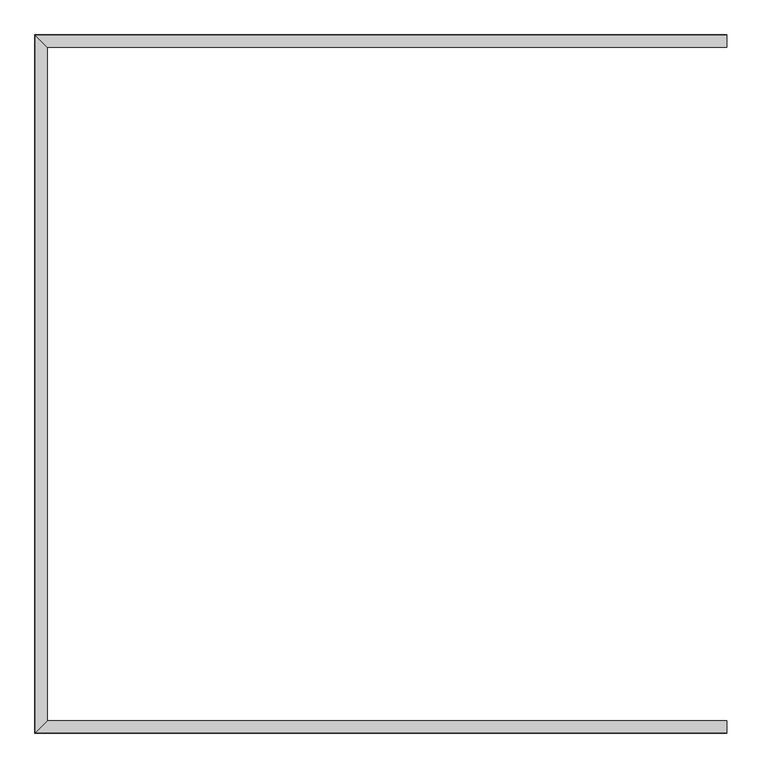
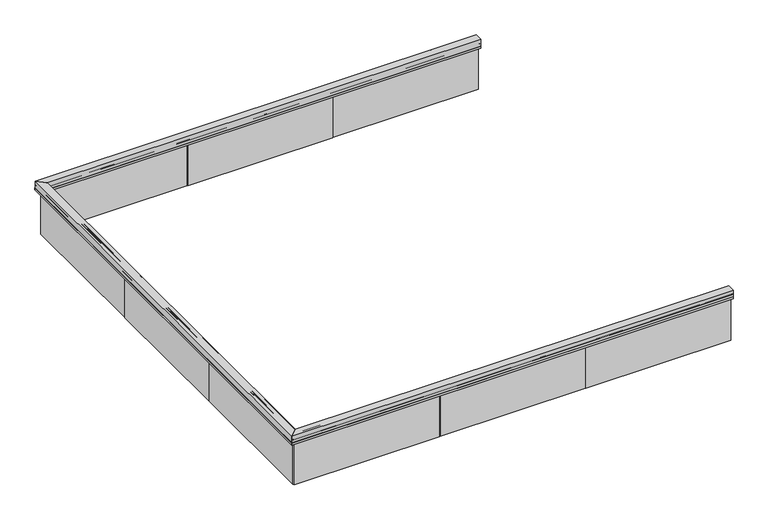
"""IFC4 building model written with IfcOpenShell, lengths in millimetres: railing geometry, Railing - VIVA Railings - Smoke Baffle System - Surface Mount 2 Sides Exposed."""

from ifc_helpers import new_model, si_unit, frame, origin, place, context, project, spatial, polyline, circle_curve, ellipse_curve, outline, extrude, source, transform, mapped, element, save
from ifc_brep_helpers import plane_surface, cylinder_surface, advanced_brep


def railing_b67c2756(model_context):
    return source(origin(), model_context, "Body", "SolidModel", [
        advanced_brep(
        [(9556.8565718, 8380.1322749, -135.8921267), (9556.8565718, 8378.9090912, -135.8921267), (9556.8565718, 8378.9090912, -153.8), (9556.8565718, 8402.9090912, -153.8), (9556.8565718, 8402.9090912, -152.4), (9556.8565718, 8383.4090912, -152.4), (9556.8565718, 8383.4090912, -135.8921267), (9556.8565718, 8382.1313489, -135.8921267), (9556.8565718, 8382.1313489, -115.6469194), (9556.8565718, 8382.1313489, -111.8354806), (9556.8565718, 8382.1313489, -78.1990741), (9556.8565718, 8399.1322749, -78.1990741), (9556.8565718, 8399.1322749, -89.9518892), (9556.8565718, 8409.3629707, -88.0459827), (9556.8565718, 8409.3629707, -78.1990741), (9556.8565718, 8411.8822749, -78.1990741), (9556.8565718, 8414.401579, -78.1990741), (9556.8565718, 8414.401579, -88.0459827), (9556.8565718, 8424.6322749, -89.9518892), (9556.8565718, 8424.6322749, -78.1990741), (9556.8565718, 8441.6332008, -78.1990741), (9556.8565718, 8441.6332008, -111.8354806), (9556.8565718, 8441.6332008, -115.6469194), (9556.8565718, 8441.6332008, -135.8921267), (9556.8565718, 8440.3554585, -135.8921267), (9556.8565718, 8440.3554585, -152.4), (9556.8565718, 8420.8554585, -152.4), (9556.8565718, 8420.8554585, -153.8), (9556.8565718, 8444.8554585, -153.8), (9556.8565718, 8444.8554585, -135.8921267), (9556.8565718, 8443.6322749, -135.8921267), (9556.8565718, 8443.6322749, -76.2), (9556.8565718, 8380.1322749, -76.2), (5931.0065718, 8380.1322749, -135.8921267), (5931.0065718, 8380.1322749, -76.2), (5867.5065718, 8443.6322749, -76.2), (5867.5065718, 8443.6322749, -135.8921267), (5866.2833882, 8444.8554585, -135.8921267), (5866.2833882, 8444.8554585, -153.8), (5890.2833882, 8420.8554585, -153.8), (5890.2833882, 8420.8554585, -152.4), (5870.7833882, 8440.3554585, -152.4), (5870.7833882, 8440.3554585, -135.8921267), (5869.5056459, 8441.6332008, -135.8921267), (5869.5056459, 8441.6332008, -115.6469194), (5869.5056459, 8441.6332008, -111.8354806), (5869.5056459, 8441.6332008, -78.1990741), (5886.5065718, 8424.6322749, -78.1990741), (5886.5065718, 8424.6322749, -89.9518892), (5896.7372677, 8414.401579, -88.0459827), (5896.7372677, 8414.401579, -78.1990741), (5899.2565718, 8411.8822749, -78.1990741), (5901.775876, 8409.3629707, -78.1990741), (5901.775876, 8409.3629707, -88.0459827), (5912.0065718, 8399.1322749, -89.9518892), (5912.0065718, 8399.1322749, -78.1990741), (5929.0074978, 8382.1313489, -78.1990741), (5929.0074978, 8382.1313489, -111.8354806), (5929.0074978, 8382.1313489, -115.6469194), (5929.0074978, 8382.1313489, -135.8921267), (5927.7297555, 8383.4090912, -135.8921267), (5927.7297555, 8383.4090912, -152.4), (5908.2297555, 8402.9090912, -152.4), (5908.2297555, 8402.9090912, -153.8), (5932.2297555, 8378.9090912, -153.8), (5932.2297555, 8378.9090912, -135.8921267)],
        [
            (0, 1),
            (1, 2),
            (2, 3),
            (3, 4),
            (4, 5),
            (5, 6),
            (6, 7),
            (7, 8),
            (8, 9, circle_curve(frame((9556.8565718, 8385.1335765, -113.7412), z_axis=(1.0, 0.0, 0.0), x_axis=(0.0, -0.6169199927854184, -0.7870258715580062)), 3.5560001)),
            (9, 10),
            (10, 11),
            (11, 12),
            (12, 13),
            (13, 14),
            (14, 15),
            (15, 16),
            (16, 17),
            (17, 18),
            (18, 19),
            (19, 20),
            (20, 21),
            (21, 22, circle_curve(frame((9556.8565718, 8438.6309732, -113.7412), z_axis=(1.0, 0.0, 0.0), x_axis=(0.0, 0.6169199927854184, -0.7870258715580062)), 3.5560001)),
            (22, 23),
            (23, 24),
            (24, 25),
            (25, 26),
            (26, 27),
            (27, 28),
            (28, 29),
            (29, 30),
            (30, 31),
            (31, 32),
            (32, 0),
            (33, 34),
            (34, 35),
            (35, 36),
            (36, 37),
            (37, 38),
            (38, 39),
            (39, 40),
            (40, 41),
            (41, 42),
            (42, 43),
            (43, 44),
            (44, 45, ellipse_curve(frame((5872.5078735, 8438.6309732, -113.7412), z_axis=(-0.7071067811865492, -0.7071067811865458, 0.0), x_axis=(0.7071067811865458, -0.7071067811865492, 0.0)), 5.0289436, 3.5560001)),
            (45, 46),
            (46, 47),
            (47, 48),
            (48, 49),
            (49, 50),
            (50, 51),
            (51, 52),
            (52, 53),
            (53, 54),
            (54, 55),
            (55, 56),
            (56, 57),
            (57, 58, ellipse_curve(frame((5926.0052702, 8385.1335765, -113.7412), z_axis=(-0.7071067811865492, -0.7071067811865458, 0.0), x_axis=(0.7071067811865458, -0.7071067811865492, 0.0)), 5.0289436, 3.5560001)),
            (58, 59),
            (59, 60),
            (60, 61),
            (61, 62),
            (62, 63),
            (63, 64),
            (64, 65),
            (65, 33),
            (0, 33),
            (65, 1),
            (64, 2),
            (63, 3),
            (62, 4),
            (61, 5),
            (60, 6),
            (59, 7),
            (58, 8),
            (57, 9),
            (56, 10),
            (55, 11),
            (54, 12),
            (53, 13),
            (52, 14),
            (51, 15),
            (50, 16),
            (49, 17),
            (48, 18),
            (47, 19),
            (46, 20),
            (45, 21),
            (44, 22),
            (43, 23),
            (42, 24),
            (41, 25),
            (40, 26),
            (39, 27),
            (38, 28),
            (37, 29),
            (36, 30),
            (35, 31),
            (34, 32),
        ],
        [
            plane_surface(frame((9556.8565718, 8411.8822749, -76.2), z_axis=(1.0, 0.0, 0.0), x_axis=(0.0, -1.0, 0.0))),
            plane_surface(frame((5899.2565718, 8411.8822749, -76.2), z_axis=(-0.7071067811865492, -0.7071067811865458, 0.0), x_axis=(0.7071067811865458, -0.7071067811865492, 0.0))),
            plane_surface(frame((9556.8565718, 8380.1322749, -135.8921267), z_axis=(0.0, 0.0, 1.0), x_axis=(-1.0, 0.0, 0.0))),
            plane_surface(frame((9556.8565718, 8378.9090912, -135.8921267), z_axis=(0.0, -1.0, 0.0), x_axis=(-1.0, 0.0, 0.0))),
            plane_surface(frame((9556.8565718, 8378.9090912, -153.8), z_axis=(0.0, 0.0, -1.0), x_axis=(-1.0, 0.0, 0.0))),
            plane_surface(frame((9556.8565718, 8402.9090912, -153.8), z_axis=(0.0, 1.0, 0.0), x_axis=(-1.0, 0.0, 0.0))),
            plane_surface(frame((9556.8565718, 8402.9090912, -152.4), z_axis=(0.0, 0.0, 1.0), x_axis=(-1.0, 0.0, 0.0))),
            plane_surface(frame((9556.8565718, 8383.4090912, -152.4), z_axis=(0.0, 1.0, 0.0), x_axis=(-1.0, 0.0, 0.0))),
            plane_surface(frame((9556.8565718, 8383.4090912, -135.8921267), z_axis=(0.0, 0.0, 1.0), x_axis=(-1.0, 0.0, 0.0))),
            plane_surface(frame((9556.8565718, 8382.1313489, -135.8921267), z_axis=(0.0, 1.0, 2.3375906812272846e-12), x_axis=(-1.0, 0.0, 0.0))),
            cylinder_surface(frame((9556.8565718, 8385.1335765, -113.7412), z_axis=(1.0, 0.0, 0.0), x_axis=(0.0, -0.6169199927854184, -0.7870258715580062)), 3.5560001),
            plane_surface(frame((9556.8565718, 8382.1313489, -111.8354806), z_axis=(0.0, 1.0, 0.0), x_axis=(-1.0, 0.0, 0.0))),
            plane_surface(frame((9556.8565718, 8382.1313489, -78.1990741), z_axis=(0.0, 0.0, -1.0), x_axis=(-1.0, 0.0, 0.0))),
            plane_surface(frame((9556.8565718, 8399.1322749, -78.1990741), z_axis=(0.0, -1.0, 0.0), x_axis=(-1.0, 0.0, 0.0))),
            plane_surface(frame((9556.8565718, 8399.1322749, -89.9518892), z_axis=(0.0, 0.1831420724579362, -0.9830864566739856), x_axis=(-1.0, 0.0, 0.0))),
            plane_surface(frame((9556.8565718, 8409.3629707, -88.0459827), z_axis=(0.0, 1.0, 0.0), x_axis=(-1.0, 0.0, 0.0))),
            plane_surface(frame((9556.8565718, 8409.3629707, -78.1990741), z_axis=(0.0, 0.0, -1.0), x_axis=(-1.0, 0.0, 0.0))),
            plane_surface(frame((9556.8565718, 8411.8822749, -78.1990741), z_axis=(0.0, 0.0, -1.0), x_axis=(-1.0, 0.0, 0.0))),
            plane_surface(frame((9556.8565718, 8414.401579, -78.1990741), z_axis=(0.0, -1.0, 0.0), x_axis=(-1.0, 0.0, 0.0))),
            plane_surface(frame((9556.8565718, 8414.401579, -88.0459827), z_axis=(0.0, -0.1831420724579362, -0.9830864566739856), x_axis=(-1.0, 0.0, 0.0))),
            plane_surface(frame((9556.8565718, 8424.6322749, -89.9518892), z_axis=(0.0, 1.0, 0.0), x_axis=(-1.0, 0.0, 0.0))),
            plane_surface(frame((9556.8565718, 8424.6322749, -78.1990741), z_axis=(0.0, 0.0, -1.0), x_axis=(-1.0, 0.0, 0.0))),
            plane_surface(frame((9556.8565718, 8441.6332008, -78.1990741), z_axis=(0.0, -1.0, 0.0), x_axis=(-1.0, 0.0, 0.0))),
            cylinder_surface(frame((9556.8565718, 8438.6309732, -113.7412), z_axis=(1.0, 0.0, 0.0), x_axis=(0.0, 0.6169199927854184, -0.7870258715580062)), 3.5560001),
            plane_surface(frame((9556.8565718, 8441.6332008, -115.6469194), z_axis=(0.0, -1.0, 2.3375906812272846e-12), x_axis=(-1.0, 0.0, 0.0))),
            plane_surface(frame((9556.8565718, 8441.6332008, -135.8921267), z_axis=(0.0, 0.0, 1.0), x_axis=(-1.0, 0.0, 0.0))),
            plane_surface(frame((9556.8565718, 8440.3554585, -135.8921267), z_axis=(0.0, -1.0, 0.0), x_axis=(-1.0, 0.0, 0.0))),
            plane_surface(frame((9556.8565718, 8440.3554585, -152.4), z_axis=(0.0, 0.0, 1.0), x_axis=(-1.0, 0.0, 0.0))),
            plane_surface(frame((9556.8565718, 8420.8554585, -152.4), z_axis=(0.0, -1.0, 0.0), x_axis=(-1.0, 0.0, 0.0))),
            plane_surface(frame((9556.8565718, 8420.8554585, -153.8), z_axis=(0.0, 0.0, -1.0), x_axis=(-1.0, 0.0, 0.0))),
            plane_surface(frame((9556.8565718, 8444.8554585, -153.8), z_axis=(0.0, 1.0, 0.0), x_axis=(-1.0, 0.0, 0.0))),
            plane_surface(frame((9556.8565718, 8444.8554585, -135.8921267), z_axis=(0.0, 0.0, 1.0), x_axis=(-1.0, 0.0, 0.0))),
            plane_surface(frame((9556.8565718, 8443.6322749, -135.8921267), z_axis=(0.0, 1.0, 0.0), x_axis=(-1.0, 0.0, 0.0))),
            plane_surface(frame((9556.8565718, 8443.6322749, -76.2), z_axis=(0.0, 0.0, 1.0), x_axis=(-1.0, 0.0, 0.0))),
            plane_surface(frame((9556.8565718, 8380.1322749, -76.2), z_axis=(0.0, -1.0, 0.0), x_axis=(-1.0, 0.0, 0.0))),
        ],
        [
            (0, [[1, 2, 3, 4, 5, 6, 7, 8, 9, 10, 11, 12, 13, 14, 15, 16, 17, 18, 19, 20, 21, 22, 23, 24, 25, 26, 27, 28, 29, 30, 31, 32, 33]]),
            (1, [[34, 35, 36, 37, 38, 39, 40, 41, 42, 43, 44, 45, 46, 47, 48, 49, 50, 51, 52, 53, 54, 55, 56, 57, 58, 59, 60, 61, 62, 63, 64, 65, 66]]),
            (2, [[-1, 67, -66, 68]]),
            (3, [[-2, -68, -65, 69]]),
            (4, [[-3, -69, -64, 70]]),
            (5, [[-4, -70, -63, 71]]),
            (6, [[-5, -71, -62, 72]]),
            (7, [[-6, -72, -61, 73]]),
            (8, [[-7, -73, -60, 74]]),
            (9, [[-8, -74, -59, 75]]),
            (10, [[-9, -75, -58, 76]]),
            (11, [[-10, -76, -57, 77]]),
            (12, [[-11, -77, -56, 78]]),
            (13, [[-12, -78, -55, 79]]),
            (14, [[-13, -79, -54, 80]]),
            (15, [[-14, -80, -53, 81]]),
            (16, [[-15, -81, -52, 82]]),
            (17, [[-16, -82, -51, 83]]),
            (18, [[-17, -83, -50, 84]]),
            (19, [[-18, -84, -49, 85]]),
            (20, [[-19, -85, -48, 86]]),
            (21, [[-20, -86, -47, 87]]),
            (22, [[-21, -87, -46, 88]]),
            (23, [[-22, -88, -45, 89]]),
            (24, [[-23, -89, -44, 90]]),
            (25, [[-24, -90, -43, 91]]),
            (26, [[-25, -91, -42, 92]]),
            (27, [[-26, -92, -41, 93]]),
            (28, [[-27, -93, -40, 94]]),
            (29, [[-28, -94, -39, 95]]),
            (30, [[-29, -95, -38, 96]]),
            (31, [[-30, -96, -37, 97]]),
            (32, [[-31, -97, -36, 98]]),
            (33, [[-32, -98, -35, 99]]),
            (34, [[-33, -99, -34, -67]]),
        ],
    ),
        advanced_brep(
        [(5931.0065718, 8380.1322749, -135.8921267), (5932.2297555, 8378.9090912, -135.8921267), (5932.2297555, 8378.9090912, -153.8), (5908.2297555, 8402.9090912, -153.8), (5908.2297555, 8402.9090912, -152.4), (5927.7297555, 8383.4090912, -152.4), (5927.7297555, 8383.4090912, -135.8921267), (5929.0074978, 8382.1313489, -135.8921267), (5929.0074978, 8382.1313489, -115.6469194), (5929.0074978, 8382.1313489, -111.8354806), (5929.0074978, 8382.1313489, -78.1990741), (5912.0065718, 8399.1322749, -78.1990741), (5912.0065718, 8399.1322749, -89.9518892), (5901.775876, 8409.3629707, -88.0459827), (5901.775876, 8409.3629707, -78.1990741), (5899.2565718, 8411.8822749, -78.1990741), (5896.7372677, 8414.401579, -78.1990741), (5896.7372677, 8414.401579, -88.0459827), (5886.5065718, 8424.6322749, -89.9518892), (5886.5065718, 8424.6322749, -78.1990741), (5869.5056459, 8441.6332008, -78.1990741), (5869.5056459, 8441.6332008, -111.8354806), (5869.5056459, 8441.6332008, -115.6469194), (5869.5056459, 8441.6332008, -135.8921267), (5870.7833882, 8440.3554585, -135.8921267), (5870.7833882, 8440.3554585, -152.4), (5890.2833882, 8420.8554585, -152.4), (5890.2833882, 8420.8554585, -153.8), (5866.2833882, 8444.8554585, -153.8), (5866.2833882, 8444.8554585, -135.8921267), (5867.5065718, 8443.6322749, -135.8921267), (5867.5065718, 8443.6322749, -76.2), (5931.0065718, 8380.1322749, -76.2), (5931.0065718, 4786.0322749, -135.8921267), (5931.0065718, 4786.0322749, -76.2), (5867.5065718, 4722.5322749, -76.2), (5867.5065718, 4722.5322749, -135.8921267), (5866.2833882, 4721.3090912, -135.8921267), (5866.2833882, 4721.3090912, -153.8), (5890.2833882, 4745.3090912, -153.8), (5890.2833882, 4745.3090912, -152.4), (5870.7833882, 4725.8090912, -152.4), (5870.7833882, 4725.8090912, -135.8921267), (5869.5056459, 4724.5313489, -135.8921267), (5869.5056459, 4724.5313489, -115.6469194), (5869.5056459, 4724.5313489, -111.8354806), (5869.5056459, 4724.5313489, -78.1990741), (5886.5065718, 4741.5322749, -78.1990741), (5886.5065718, 4741.5322749, -89.9518892), (5896.7372677, 4751.7629707, -88.0459827), (5896.7372677, 4751.7629707, -78.1990741), (5899.2565718, 4754.2822749, -78.1990741), (5901.775876, 4756.801579, -78.1990741), (5901.775876, 4756.801579, -88.0459827), (5912.0065718, 4767.0322749, -89.9518892), (5912.0065718, 4767.0322749, -78.1990741), (5929.0074978, 4784.0332008, -78.1990741), (5929.0074978, 4784.0332008, -111.8354806), (5929.0074978, 4784.0332008, -115.6469194), (5929.0074978, 4784.0332008, -135.8921267), (5927.7297555, 4782.7554585, -135.8921267), (5927.7297555, 4782.7554585, -152.4), (5908.2297555, 4763.2554585, -152.4), (5908.2297555, 4763.2554585, -153.8), (5932.2297555, 4787.2554585, -153.8), (5932.2297555, 4787.2554585, -135.8921267)],
        [
            (0, 1),
            (1, 2),
            (2, 3),
            (3, 4),
            (4, 5),
            (5, 6),
            (6, 7),
            (7, 8),
            (8, 9, ellipse_curve(frame((5926.0052702, 8385.1335765, -113.7412), z_axis=(0.7071067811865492, 0.7071067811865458, 0.0), x_axis=(-0.7071067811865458, 0.7071067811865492, 0.0)), 5.0289436, 3.5560001)),
            (9, 10),
            (10, 11),
            (11, 12),
            (12, 13),
            (13, 14),
            (14, 15),
            (15, 16),
            (16, 17),
            (17, 18),
            (18, 19),
            (19, 20),
            (20, 21),
            (21, 22, ellipse_curve(frame((5872.5078735, 8438.6309732, -113.7412), z_axis=(0.7071067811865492, 0.7071067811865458, 0.0), x_axis=(-0.7071067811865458, 0.7071067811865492, 0.0)), 5.0289436, 3.5560001)),
            (22, 23),
            (23, 24),
            (24, 25),
            (25, 26),
            (26, 27),
            (27, 28),
            (28, 29),
            (29, 30),
            (30, 31),
            (31, 32),
            (32, 0),
            (33, 34),
            (34, 35),
            (35, 36),
            (36, 37),
            (37, 38),
            (38, 39),
            (39, 40),
            (40, 41),
            (41, 42),
            (42, 43),
            (43, 44),
            (44, 45, ellipse_curve(frame((5872.5078735, 4727.5335765, -113.7412), z_axis=(0.7071067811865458, -0.7071067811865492, 0.0), x_axis=(0.7071067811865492, 0.7071067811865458, 0.0)), 5.0289436, 3.5560001)),
            (45, 46),
            (46, 47),
            (47, 48),
            (48, 49),
            (49, 50),
            (50, 51),
            (51, 52),
            (52, 53),
            (53, 54),
            (54, 55),
            (55, 56),
            (56, 57),
            (57, 58, ellipse_curve(frame((5926.0052702, 4781.0309732, -113.7412), z_axis=(0.7071067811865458, -0.7071067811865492, 0.0), x_axis=(0.7071067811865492, 0.7071067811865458, 0.0)), 5.0289436, 3.5560001)),
            (58, 59),
            (59, 60),
            (60, 61),
            (61, 62),
            (62, 63),
            (63, 64),
            (64, 65),
            (65, 33),
            (0, 33),
            (65, 1),
            (64, 2),
            (63, 3),
            (62, 4),
            (61, 5),
            (60, 6),
            (59, 7),
            (58, 8),
            (57, 9),
            (56, 10),
            (55, 11),
            (54, 12),
            (53, 13),
            (52, 14),
            (51, 15),
            (50, 16),
            (49, 17),
            (48, 18),
            (47, 19),
            (46, 20),
            (45, 21),
            (44, 22),
            (43, 23),
            (42, 24),
            (41, 25),
            (40, 26),
            (39, 27),
            (38, 28),
            (37, 29),
            (36, 30),
            (35, 31),
            (34, 32),
        ],
        [
            plane_surface(frame((5899.2565718, 8411.8822749, -76.2), z_axis=(0.7071067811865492, 0.7071067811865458, 0.0), x_axis=(0.7071067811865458, -0.7071067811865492, 0.0))),
            plane_surface(frame((5899.2565718, 4754.2822749, -76.2), z_axis=(0.7071067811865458, -0.7071067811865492, 0.0), x_axis=(0.7071067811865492, 0.7071067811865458, 0.0))),
            plane_surface(frame((5931.0065718, 8380.1322749, -135.8921267), z_axis=(0.0, 0.0, 1.0), x_axis=(0.0, -1.0, 0.0))),
            plane_surface(frame((5932.2297555, 8378.9090912, -135.8921267), z_axis=(1.0, 0.0, 0.0), x_axis=(0.0, -1.0, 0.0))),
            plane_surface(frame((5932.2297555, 8378.9090912, -153.8), z_axis=(0.0, 0.0, -1.0), x_axis=(0.0, -1.0, 0.0))),
            plane_surface(frame((5908.2297555, 8402.9090912, -153.8), z_axis=(-1.0, 0.0, 0.0), x_axis=(0.0, -1.0, 0.0))),
            plane_surface(frame((5908.2297555, 8402.9090912, -152.4), z_axis=(0.0, 0.0, 1.0), x_axis=(0.0, -1.0, 0.0))),
            plane_surface(frame((5927.7297555, 8383.4090912, -152.4), z_axis=(-1.0, 0.0, 0.0), x_axis=(0.0, -1.0, 0.0))),
            plane_surface(frame((5927.7297555, 8383.4090912, -135.8921267), z_axis=(0.0, 0.0, 1.0), x_axis=(0.0, -1.0, 0.0))),
            plane_surface(frame((5929.0074978, 8382.1313489, -135.8921267), z_axis=(-1.0, 0.0, 2.3375906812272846e-12), x_axis=(0.0, -1.0, 0.0))),
            cylinder_surface(frame((5926.0052702, 8411.8822749, -113.7412), z_axis=(0.0, 1.0, 0.0), x_axis=(0.6169199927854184, 0.0, -0.7870258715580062)), 3.5560001),
            plane_surface(frame((5929.0074978, 8382.1313489, -111.8354806), z_axis=(-1.0, 0.0, 0.0), x_axis=(0.0, -1.0, 0.0))),
            plane_surface(frame((5929.0074978, 8382.1313489, -78.1990741), z_axis=(0.0, 0.0, -1.0), x_axis=(0.0, -1.0, 0.0))),
            plane_surface(frame((5912.0065718, 8399.1322749, -78.1990741), z_axis=(1.0, 0.0, 0.0), x_axis=(0.0, -1.0, 0.0))),
            plane_surface(frame((5912.0065718, 8399.1322749, -89.9518892), z_axis=(-0.1831420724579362, 0.0, -0.9830864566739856), x_axis=(0.0, -1.0, 0.0))),
            plane_surface(frame((5901.775876, 8409.3629707, -88.0459827), z_axis=(-1.0, 0.0, 0.0), x_axis=(0.0, -1.0, 0.0))),
            plane_surface(frame((5901.775876, 8409.3629707, -78.1990741), z_axis=(0.0, 0.0, -1.0), x_axis=(0.0, -1.0, 0.0))),
            plane_surface(frame((5899.2565718, 8411.8822749, -78.1990741), z_axis=(0.0, 0.0, -1.0), x_axis=(0.0, -1.0, 0.0))),
            plane_surface(frame((5896.7372677, 8414.401579, -78.1990741), z_axis=(1.0, 0.0, 0.0), x_axis=(0.0, -1.0, 0.0))),
            plane_surface(frame((5896.7372677, 8414.401579, -88.0459827), z_axis=(0.1831420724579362, 0.0, -0.9830864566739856), x_axis=(0.0, -1.0, 0.0))),
            plane_surface(frame((5886.5065718, 8424.6322749, -89.9518892), z_axis=(-1.0, 0.0, 0.0), x_axis=(0.0, -1.0, 0.0))),
            plane_surface(frame((5886.5065718, 8424.6322749, -78.1990741), z_axis=(0.0, 0.0, -1.0), x_axis=(0.0, -1.0, 0.0))),
            plane_surface(frame((5869.5056459, 8441.6332008, -78.1990741), z_axis=(1.0, 0.0, 0.0), x_axis=(0.0, -1.0, 0.0))),
            cylinder_surface(frame((5872.5078735, 8411.8822749, -113.7412), z_axis=(0.0, 1.0, 0.0), x_axis=(-0.6169199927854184, 0.0, -0.7870258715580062)), 3.5560001),
            plane_surface(frame((5869.5056459, 8441.6332008, -115.6469194), z_axis=(1.0, 0.0, 2.3375906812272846e-12), x_axis=(0.0, -1.0, 0.0))),
            plane_surface(frame((5869.5056459, 8441.6332008, -135.8921267), z_axis=(0.0, 0.0, 1.0), x_axis=(0.0, -1.0, 0.0))),
            plane_surface(frame((5870.7833882, 8440.3554585, -135.8921267), z_axis=(1.0, 0.0, 0.0), x_axis=(0.0, -1.0, 0.0))),
            plane_surface(frame((5870.7833882, 8440.3554585, -152.4), z_axis=(0.0, 0.0, 1.0), x_axis=(0.0, -1.0, 0.0))),
            plane_surface(frame((5890.2833882, 8420.8554585, -152.4), z_axis=(1.0, 0.0, 0.0), x_axis=(0.0, -1.0, 0.0))),
            plane_surface(frame((5890.2833882, 8420.8554585, -153.8), z_axis=(0.0, 0.0, -1.0), x_axis=(0.0, -1.0, 0.0))),
            plane_surface(frame((5866.2833882, 8444.8554585, -153.8), z_axis=(-1.0, 0.0, 0.0), x_axis=(0.0, -1.0, 0.0))),
            plane_surface(frame((5866.2833882, 8444.8554585, -135.8921267), z_axis=(0.0, 0.0, 1.0), x_axis=(0.0, -1.0, 0.0))),
            plane_surface(frame((5867.5065718, 8443.6322749, -135.8921267), z_axis=(-1.0, 0.0, 0.0), x_axis=(0.0, -1.0, 0.0))),
            plane_surface(frame((5867.5065718, 8443.6322749, -76.2), z_axis=(0.0, 0.0, 1.0), x_axis=(0.0, -1.0, 0.0))),
            plane_surface(frame((5931.0065718, 8380.1322749, -76.2), z_axis=(1.0, 0.0, 0.0), x_axis=(0.0, -1.0, 0.0))),
        ],
        [
            (0, [[1, 2, 3, 4, 5, 6, 7, 8, 9, 10, 11, 12, 13, 14, 15, 16, 17, 18, 19, 20, 21, 22, 23, 24, 25, 26, 27, 28, 29, 30, 31, 32, 33]]),
            (1, [[34, 35, 36, 37, 38, 39, 40, 41, 42, 43, 44, 45, 46, 47, 48, 49, 50, 51, 52, 53, 54, 55, 56, 57, 58, 59, 60, 61, 62, 63, 64, 65, 66]]),
            (2, [[-1, 67, -66, 68]]),
            (3, [[-2, -68, -65, 69]]),
            (4, [[-3, -69, -64, 70]]),
            (5, [[-4, -70, -63, 71]]),
            (6, [[-5, -71, -62, 72]]),
            (7, [[-6, -72, -61, 73]]),
            (8, [[-7, -73, -60, 74]]),
            (9, [[-8, -74, -59, 75]]),
            (10, [[-9, -75, -58, 76]]),
            (11, [[-10, -76, -57, 77]]),
            (12, [[-11, -77, -56, 78]]),
            (13, [[-12, -78, -55, 79]]),
            (14, [[-13, -79, -54, 80]]),
            (15, [[-14, -80, -53, 81]]),
            (16, [[-15, -81, -52, 82]]),
            (17, [[-16, -82, -51, 83]]),
            (18, [[-17, -83, -50, 84]]),
            (19, [[-18, -84, -49, 85]]),
            (20, [[-19, -85, -48, 86]]),
            (21, [[-20, -86, -47, 87]]),
            (22, [[-21, -87, -46, 88]]),
            (23, [[-22, -88, -45, 89]]),
            (24, [[-23, -89, -44, 90]]),
            (25, [[-24, -90, -43, 91]]),
            (26, [[-25, -91, -42, 92]]),
            (27, [[-26, -92, -41, 93]]),
            (28, [[-27, -93, -40, 94]]),
            (29, [[-28, -94, -39, 95]]),
            (30, [[-29, -95, -38, 96]]),
            (31, [[-30, -96, -37, 97]]),
            (32, [[-31, -97, -36, 98]]),
            (33, [[-32, -98, -35, 99]]),
            (34, [[-33, -99, -34, -67]]),
        ],
    ),
        advanced_brep(
        [(5931.0065718, 4786.0322749, -135.8921267), (5932.2297555, 4787.2554585, -135.8921267), (5932.2297555, 4787.2554585, -153.8), (5908.2297555, 4763.2554585, -153.8), (5908.2297555, 4763.2554585, -152.4), (5927.7297555, 4782.7554585, -152.4), (5927.7297555, 4782.7554585, -135.8921267), (5929.0074978, 4784.0332008, -135.8921267), (5929.0074978, 4784.0332008, -115.6469194), (5929.0074978, 4784.0332008, -111.8354806), (5929.0074978, 4784.0332008, -78.1990741), (5912.0065718, 4767.0322749, -78.1990741), (5912.0065718, 4767.0322749, -89.9518892), (5901.775876, 4756.801579, -88.0459827), (5901.775876, 4756.801579, -78.1990741), (5899.2565718, 4754.2822749, -78.1990741), (5896.7372677, 4751.7629707, -78.1990741), (5896.7372677, 4751.7629707, -88.0459827), (5886.5065718, 4741.5322749, -89.9518892), (5886.5065718, 4741.5322749, -78.1990741), (5869.5056459, 4724.5313489, -78.1990741), (5869.5056459, 4724.5313489, -111.8354806), (5869.5056459, 4724.5313489, -115.6469194), (5869.5056459, 4724.5313489, -135.8921267), (5870.7833882, 4725.8090912, -135.8921267), (5870.7833882, 4725.8090912, -152.4), (5890.2833882, 4745.3090912, -152.4), (5890.2833882, 4745.3090912, -153.8), (5866.2833882, 4721.3090912, -153.8), (5866.2833882, 4721.3090912, -135.8921267), (5867.5065718, 4722.5322749, -135.8921267), (5867.5065718, 4722.5322749, -76.2), (5931.0065718, 4786.0322749, -76.2), (9556.8565718, 4786.0322749, -135.8921267), (9556.8565718, 4786.0322749, -76.2), (9556.8565718, 4722.5322749, -76.2), (9556.8565718, 4722.5322749, -135.8921267), (9556.8565718, 4721.3090912, -135.8921267), (9556.8565718, 4721.3090912, -153.8), (9556.8565718, 4745.3090912, -153.8), (9556.8565718, 4745.3090912, -152.4), (9556.8565718, 4725.8090912, -152.4), (9556.8565718, 4725.8090912, -135.8921267), (9556.8565718, 4724.5313489, -135.8921267), (9556.8565718, 4724.5313489, -115.6469194), (9556.8565718, 4724.5313489, -111.8354806), (9556.8565718, 4724.5313489, -78.1990741), (9556.8565718, 4741.5322749, -78.1990741), (9556.8565718, 4741.5322749, -89.9518892), (9556.8565718, 4751.7629707, -88.0459827), (9556.8565718, 4751.7629707, -78.1990741), (9556.8565718, 4754.2822749, -78.1990741), (9556.8565718, 4756.801579, -78.1990741), (9556.8565718, 4756.801579, -88.0459827), (9556.8565718, 4767.0322749, -89.9518892), (9556.8565718, 4767.0322749, -78.1990741), (9556.8565718, 4784.0332008, -78.1990741), (9556.8565718, 4784.0332008, -111.8354806), (9556.8565718, 4784.0332008, -115.6469194), (9556.8565718, 4784.0332008, -135.8921267), (9556.8565718, 4782.7554585, -135.8921267), (9556.8565718, 4782.7554585, -152.4), (9556.8565718, 4763.2554585, -152.4), (9556.8565718, 4763.2554585, -153.8), (9556.8565718, 4787.2554585, -153.8), (9556.8565718, 4787.2554585, -135.8921267)],
        [
            (0, 1),
            (1, 2),
            (2, 3),
            (3, 4),
            (4, 5),
            (5, 6),
            (6, 7),
            (7, 8),
            (8, 9, ellipse_curve(frame((5926.0052702, 4781.0309732, -113.7412), z_axis=(-0.7071067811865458, 0.7071067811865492, 0.0), x_axis=(-0.7071067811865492, -0.7071067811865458, 0.0)), 5.0289436, 3.5560001)),
            (9, 10),
            (10, 11),
            (11, 12),
            (12, 13),
            (13, 14),
            (14, 15),
            (15, 16),
            (16, 17),
            (17, 18),
            (18, 19),
            (19, 20),
            (20, 21),
            (21, 22, ellipse_curve(frame((5872.5078735, 4727.5335765, -113.7412), z_axis=(-0.7071067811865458, 0.7071067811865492, 0.0), x_axis=(-0.7071067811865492, -0.7071067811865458, 0.0)), 5.0289436, 3.5560001)),
            (22, 23),
            (23, 24),
            (24, 25),
            (25, 26),
            (26, 27),
            (27, 28),
            (28, 29),
            (29, 30),
            (30, 31),
            (31, 32),
            (32, 0),
            (33, 34),
            (34, 35),
            (35, 36),
            (36, 37),
            (37, 38),
            (38, 39),
            (39, 40),
            (40, 41),
            (41, 42),
            (42, 43),
            (43, 44),
            (44, 45, circle_curve(frame((9556.8565718, 4727.5335765, -113.7412), z_axis=(1.0, 0.0, 0.0), x_axis=(0.0, -0.6169199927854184, -0.7870258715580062)), 3.5560001)),
            (45, 46),
            (46, 47),
            (47, 48),
            (48, 49),
            (49, 50),
            (50, 51),
            (51, 52),
            (52, 53),
            (53, 54),
            (54, 55),
            (55, 56),
            (56, 57),
            (57, 58, circle_curve(frame((9556.8565718, 4781.0309732, -113.7412), z_axis=(1.0, 0.0, 0.0), x_axis=(0.0, 0.6169199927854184, -0.7870258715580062)), 3.5560001)),
            (58, 59),
            (59, 60),
            (60, 61),
            (61, 62),
            (62, 63),
            (63, 64),
            (64, 65),
            (65, 33),
            (0, 33),
            (65, 1),
            (64, 2),
            (63, 3),
            (62, 4),
            (61, 5),
            (60, 6),
            (59, 7),
            (58, 8),
            (57, 9),
            (56, 10),
            (55, 11),
            (54, 12),
            (53, 13),
            (52, 14),
            (51, 15),
            (50, 16),
            (49, 17),
            (48, 18),
            (47, 19),
            (46, 20),
            (45, 21),
            (44, 22),
            (43, 23),
            (42, 24),
            (41, 25),
            (40, 26),
            (39, 27),
            (38, 28),
            (37, 29),
            (36, 30),
            (35, 31),
            (34, 32),
        ],
        [
            plane_surface(frame((5899.2565718, 4754.2822749, -76.2), z_axis=(-0.7071067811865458, 0.7071067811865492, 0.0), x_axis=(0.7071067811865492, 0.7071067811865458, 0.0))),
            plane_surface(frame((9556.8565718, 4754.2822749, -76.2), z_axis=(1.0, 0.0, 0.0), x_axis=(0.0, 1.0, 0.0))),
            plane_surface(frame((5931.0065718, 4786.0322749, -135.8921267), z_axis=(0.0, 0.0, 1.0), x_axis=(1.0, 0.0, 0.0))),
            plane_surface(frame((5932.2297555, 4787.2554585, -135.8921267), z_axis=(0.0, 1.0, 0.0), x_axis=(1.0, 0.0, 0.0))),
            plane_surface(frame((5932.2297555, 4787.2554585, -153.8), z_axis=(0.0, 0.0, -1.0), x_axis=(1.0, 0.0, 0.0))),
            plane_surface(frame((5908.2297555, 4763.2554585, -153.8), z_axis=(0.0, -1.0, 0.0), x_axis=(1.0, 0.0, 0.0))),
            plane_surface(frame((5908.2297555, 4763.2554585, -152.4), z_axis=(0.0, 0.0, 1.0), x_axis=(1.0, 0.0, 0.0))),
            plane_surface(frame((5927.7297555, 4782.7554585, -152.4), z_axis=(0.0, -1.0, 0.0), x_axis=(1.0, 0.0, 0.0))),
            plane_surface(frame((5927.7297555, 4782.7554585, -135.8921267), z_axis=(0.0, 0.0, 1.0), x_axis=(1.0, 0.0, 0.0))),
            plane_surface(frame((5929.0074978, 4784.0332008, -135.8921267), z_axis=(0.0, -1.0, 2.3375906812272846e-12), x_axis=(1.0, 0.0, 0.0))),
            cylinder_surface(frame((5899.2565718, 4781.0309732, -113.7412), z_axis=(-1.0, 0.0, 0.0), x_axis=(0.0, 0.6169199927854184, -0.7870258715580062)), 3.5560001),
            plane_surface(frame((5929.0074978, 4784.0332008, -111.8354806), z_axis=(0.0, -1.0, 0.0), x_axis=(1.0, 0.0, 0.0))),
            plane_surface(frame((5929.0074978, 4784.0332008, -78.1990741), z_axis=(0.0, 0.0, -1.0), x_axis=(1.0, 0.0, 0.0))),
            plane_surface(frame((5912.0065718, 4767.0322749, -78.1990741), z_axis=(0.0, 1.0, 0.0), x_axis=(1.0, 0.0, 0.0))),
            plane_surface(frame((5912.0065718, 4767.0322749, -89.9518892), z_axis=(0.0, -0.1831420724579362, -0.9830864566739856), x_axis=(1.0, 0.0, 0.0))),
            plane_surface(frame((5901.775876, 4756.801579, -88.0459827), z_axis=(0.0, -1.0, 0.0), x_axis=(1.0, 0.0, 0.0))),
            plane_surface(frame((5901.775876, 4756.801579, -78.1990741), z_axis=(0.0, 0.0, -1.0), x_axis=(1.0, 0.0, 0.0))),
            plane_surface(frame((5899.2565718, 4754.2822749, -78.1990741), z_axis=(0.0, 0.0, -1.0), x_axis=(1.0, 0.0, 0.0))),
            plane_surface(frame((5896.7372677, 4751.7629707, -78.1990741), z_axis=(0.0, 1.0, 0.0), x_axis=(1.0, 0.0, 0.0))),
            plane_surface(frame((5896.7372677, 4751.7629707, -88.0459827), z_axis=(0.0, 0.1831420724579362, -0.9830864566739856), x_axis=(1.0, 0.0, 0.0))),
            plane_surface(frame((5886.5065718, 4741.5322749, -89.9518892), z_axis=(0.0, -1.0, 0.0), x_axis=(1.0, 0.0, 0.0))),
            plane_surface(frame((5886.5065718, 4741.5322749, -78.1990741), z_axis=(0.0, 0.0, -1.0), x_axis=(1.0, 0.0, 0.0))),
            plane_surface(frame((5869.5056459, 4724.5313489, -78.1990741), z_axis=(0.0, 1.0, 0.0), x_axis=(1.0, 0.0, 0.0))),
            cylinder_surface(frame((5899.2565718, 4727.5335765, -113.7412), z_axis=(-1.0, 0.0, 0.0), x_axis=(0.0, -0.6169199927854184, -0.7870258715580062)), 3.5560001),
            plane_surface(frame((5869.5056459, 4724.5313489, -115.6469194), z_axis=(0.0, 1.0, 2.3375906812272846e-12), x_axis=(1.0, 0.0, 0.0))),
            plane_surface(frame((5869.5056459, 4724.5313489, -135.8921267), z_axis=(0.0, 0.0, 1.0), x_axis=(1.0, 0.0, 0.0))),
            plane_surface(frame((5870.7833882, 4725.8090912, -135.8921267), z_axis=(0.0, 1.0, 0.0), x_axis=(1.0, 0.0, 0.0))),
            plane_surface(frame((5870.7833882, 4725.8090912, -152.4), z_axis=(0.0, 0.0, 1.0), x_axis=(1.0, 0.0, 0.0))),
            plane_surface(frame((5890.2833882, 4745.3090912, -152.4), z_axis=(0.0, 1.0, 0.0), x_axis=(1.0, 0.0, 0.0))),
            plane_surface(frame((5890.2833882, 4745.3090912, -153.8), z_axis=(0.0, 0.0, -1.0), x_axis=(1.0, 0.0, 0.0))),
            plane_surface(frame((5866.2833882, 4721.3090912, -153.8), z_axis=(0.0, -1.0, 0.0), x_axis=(1.0, 0.0, 0.0))),
            plane_surface(frame((5866.2833882, 4721.3090912, -135.8921267), z_axis=(0.0, 0.0, 1.0), x_axis=(1.0, 0.0, 0.0))),
            plane_surface(frame((5867.5065718, 4722.5322749, -135.8921267), z_axis=(0.0, -1.0, 0.0), x_axis=(1.0, 0.0, 0.0))),
            plane_surface(frame((5867.5065718, 4722.5322749, -76.2), z_axis=(0.0, 0.0, 1.0), x_axis=(1.0, 0.0, 0.0))),
            plane_surface(frame((5931.0065718, 4786.0322749, -76.2), z_axis=(0.0, 1.0, 0.0), x_axis=(1.0, 0.0, 0.0))),
        ],
        [
            (0, [[1, 2, 3, 4, 5, 6, 7, 8, 9, 10, 11, 12, 13, 14, 15, 16, 17, 18, 19, 20, 21, 22, 23, 24, 25, 26, 27, 28, 29, 30, 31, 32, 33]]),
            (1, [[34, 35, 36, 37, 38, 39, 40, 41, 42, 43, 44, 45, 46, 47, 48, 49, 50, 51, 52, 53, 54, 55, 56, 57, 58, 59, 60, 61, 62, 63, 64, 65, 66]]),
            (2, [[-1, 67, -66, 68]]),
            (3, [[-2, -68, -65, 69]]),
            (4, [[-3, -69, -64, 70]]),
            (5, [[-4, -70, -63, 71]]),
            (6, [[-5, -71, -62, 72]]),
            (7, [[-6, -72, -61, 73]]),
            (8, [[-7, -73, -60, 74]]),
            (9, [[-8, -74, -59, 75]]),
            (10, [[-9, -75, -58, 76]]),
            (11, [[-10, -76, -57, 77]]),
            (12, [[-11, -77, -56, 78]]),
            (13, [[-12, -78, -55, 79]]),
            (14, [[-13, -79, -54, 80]]),
            (15, [[-14, -80, -53, 81]]),
            (16, [[-15, -81, -52, 82]]),
            (17, [[-16, -82, -51, 83]]),
            (18, [[-17, -83, -50, 84]]),
            (19, [[-18, -84, -49, 85]]),
            (20, [[-19, -85, -48, 86]]),
            (21, [[-20, -86, -47, 87]]),
            (22, [[-21, -87, -46, 88]]),
            (23, [[-22, -88, -45, 89]]),
            (24, [[-23, -89, -44, 90]]),
            (25, [[-24, -90, -43, 91]]),
            (26, [[-25, -91, -42, 92]]),
            (27, [[-26, -92, -41, 93]]),
            (28, [[-27, -93, -40, 94]]),
            (29, [[-28, -94, -39, 95]]),
            (30, [[-29, -95, -38, 96]]),
            (31, [[-30, -96, -37, 97]]),
            (32, [[-31, -97, -36, 98]]),
            (33, [[-32, -98, -35, 99]]),
            (34, [[-33, -99, -34, -67]]),
        ],
    ),
        extrude(outline(polyline([(8341.1663831, 4759.0447749), (9554.0646184, 4759.0447749), (9554.0646184, 4749.5197749), (8341.1663831, 4749.5197749), (8341.1663831, 4759.0447749)])), frame((0.0, 0.0, -533.003125), z_axis=(0.0, 0.0, 1.0), x_axis=(1.0, 0.0, 0.0)), (0.0, 0.0, 1.0), 429.7164062),
        extrude(outline(polyline([(7121.9663831, 4759.0447749), (8334.8646184, 4759.0447749), (8334.8646184, 4749.5197749), (7121.9663831, 4749.5197749), (7121.9663831, 4759.0447749)])), frame((0.0, 0.0, -533.003125), z_axis=(0.0, 0.0, 1.0), x_axis=(1.0, 0.0, 0.0)), (0.0, 0.0, 1.0), 429.7164062),
        extrude(outline(polyline([(5902.7663831, 4759.0447749), (7115.6646184, 4759.0447749), (7115.6646184, 4749.5197749), (5902.7663831, 4749.5197749), (5902.7663831, 4759.0447749)])), frame((0.0, 0.0, -533.003125), z_axis=(0.0, 0.0, 1.0), x_axis=(1.0, 0.0, 0.0)), (0.0, 0.0, 1.0), 429.7164062),
        extrude(outline(polyline([(5904.0190718, 5969.9724636), (5904.0190718, 4757.0742283), (5894.4940718, 4757.0742283), (5894.4940718, 5969.9724636), (5904.0190718, 5969.9724636)])), frame((0.0, 0.0, -533.003125), z_axis=(0.0, 0.0, 1.0), x_axis=(1.0, 0.0, 0.0)), (0.0, 0.0, 1.0), 429.7164062),
        extrude(outline(polyline([(5904.0190718, 7189.1724636), (5904.0190718, 5976.2742283), (5894.4940718, 5976.2742283), (5894.4940718, 7189.1724636), (5904.0190718, 7189.1724636)])), frame((0.0, 0.0, -533.003125), z_axis=(0.0, 0.0, 1.0), x_axis=(1.0, 0.0, 0.0)), (0.0, 0.0, 1.0), 429.7164062),
        extrude(outline(polyline([(5904.0190718, 8408.3724636), (5904.0190718, 7195.4742283), (5894.4940718, 7195.4742283), (5894.4940718, 8408.3724636), (5904.0190718, 8408.3724636)])), frame((0.0, 0.0, -533.003125), z_axis=(0.0, 0.0, 1.0), x_axis=(1.0, 0.0, 0.0)), (0.0, 0.0, 1.0), 429.7164062),
        extrude(outline(polyline([(7114.9467606, 8407.1197749), (5902.0485252, 8407.1197749), (5902.0485252, 8416.6447749), (7114.9467606, 8416.6447749), (7114.9467606, 8407.1197749)])), frame((0.0, 0.0, -533.003125), z_axis=(0.0, 0.0, 1.0), x_axis=(1.0, 0.0, 0.0)), (0.0, 0.0, 1.0), 429.7164062),
        extrude(outline(polyline([(8334.1467606, 8407.1197749), (7121.2485252, 8407.1197749), (7121.2485252, 8416.6447749), (8334.1467606, 8416.6447749), (8334.1467606, 8407.1197749)])), frame((0.0, 0.0, -533.003125), z_axis=(0.0, 0.0, 1.0), x_axis=(1.0, 0.0, 0.0)), (0.0, 0.0, 1.0), 429.7164062),
        extrude(outline(polyline([(9553.3467606, 8407.1197749), (8340.4485252, 8407.1197749), (8340.4485252, 8416.6447749), (9553.3467606, 8416.6447749), (9553.3467606, 8407.1197749)])), frame((0.0, 0.0, -533.003125), z_axis=(0.0, 0.0, 1.0), x_axis=(1.0, 0.0, 0.0)), (0.0, 0.0, 1.0), 429.7164062),
    ])


if __name__ == "__main__":
    model = new_model("IFC4")
    model_context = context("Model", 3, world=origin())
    ifc_project = project(units=[si_unit("LENGTHUNIT", "METRE", prefix="MILLI")], contexts=[model_context])
    site = spatial("IfcSite", under=ifc_project)
    building = spatial("IfcBuilding", under=site)
    placement = place(None, origin())
    railing_shape = railing_b67c2756(model_context)
    element("IfcRailing", 1, ObjectType="Railing - VIVA Railings - Smoke Baffle System - Surface Mount 2 Sides Exposed", at=placement, inside=building, context=model_context, shape_type="MappedRepresentation", body=[
        mapped(railing_shape, transform((0.0, 0.0, 0.0), x_axis=(1.0, 0.0, 0.0), y_axis=(0.0, 1.0, 0.0), z_axis=(0.0, 0.0, 1.0))),
    ])
    save(model, "model.ifc")
